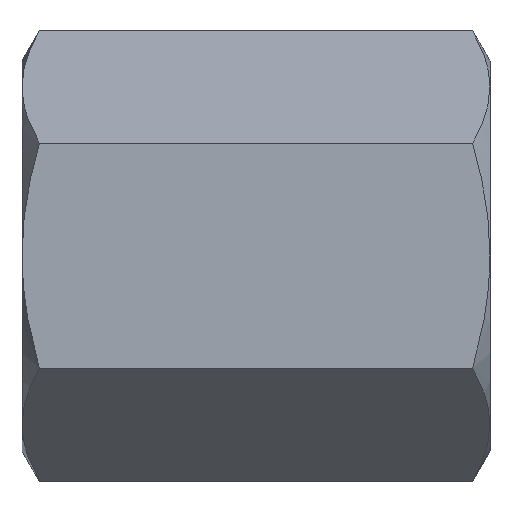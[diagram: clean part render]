
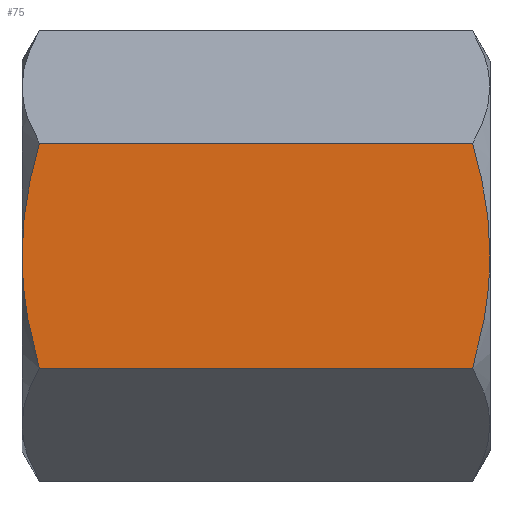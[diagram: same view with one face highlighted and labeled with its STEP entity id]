
A CAD part, top view. The second image highlights one B-rep face of the part: STEP entity #75.
In plain terms, the highlighted planar face has unit normal (0, 0, 1).
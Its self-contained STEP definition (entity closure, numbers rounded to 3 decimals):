
#75 = ADVANCED_FACE( '', ( #99 ), #100, .F. );
#99 = FACE_OUTER_BOUND( '', #150, .T. );
#100 = PLANE( '', #151 );
#150 = EDGE_LOOP( '', ( #201, #202, #203, #204, #205, #206 ) );
#151 = AXIS2_PLACEMENT_3D( '', #207, #208, #209 );
#201 = ORIENTED_EDGE( '', *, *, #362, .F. );
#202 = ORIENTED_EDGE( '', *, *, #363, .F. );
#203 = ORIENTED_EDGE( '', *, *, #364, .F. );
#204 = ORIENTED_EDGE( '', *, *, #365, .T. );
#205 = ORIENTED_EDGE( '', *, *, #366, .F. );
#206 = ORIENTED_EDGE( '', *, *, #367, .F. );
#207 = CARTESIAN_POINT( '', ( 12., 2.887, 5. ) );
#208 = DIRECTION( '', ( 0., 0., -1. ) );
#209 = DIRECTION( '', ( -1., 0., 0. ) );
#362 = EDGE_CURVE( '', #408, #409, #410, .T. );
#363 = EDGE_CURVE( '', #411, #408, #412, .F. );
#364 = EDGE_CURVE( '', #413, #411, #414, .F. );
#365 = EDGE_CURVE( '', #413, #415, #416, .T. );
#366 = EDGE_CURVE( '', #417, #415, #418, .T. );
#367 = EDGE_CURVE( '', #409, #417, #419, .T. );
#408 = VERTEX_POINT( '', #482 );
#409 = VERTEX_POINT( '', #483 );
#410 = LINE( '', #484, #485 );
#411 = VERTEX_POINT( '', #486 );
#412 = B_SPLINE_CURVE_WITH_KNOTS( '', 3, ( #487, #488, #489, #490, #491, #492 ), .UNSPECIFIED., .F., .F., ( 4, 2, 4 ), ( 0.005, 0.007, 0.008 ), .UNSPECIFIED. );
#413 = VERTEX_POINT( '', #493 );
#414 = B_SPLINE_CURVE_WITH_KNOTS( '', 3, ( #494, #495, #496, #497, #498, #499 ), .UNSPECIFIED., .F., .F., ( 4, 2, 4 ), ( 0.008, 0.01, 0.011 ), .UNSPECIFIED. );
#415 = VERTEX_POINT( '', #500 );
#416 = LINE( '', #501, #502 );
#417 = VERTEX_POINT( '', #503 );
#418 = B_SPLINE_CURVE_WITH_KNOTS( '', 3, ( #504, #505, #506, #507, #508, #509 ), .UNSPECIFIED., .F., .F., ( 4, 2, 4 ), ( 0.008, 0.01, 0.011 ), .UNSPECIFIED. );
#419 = B_SPLINE_CURVE_WITH_KNOTS( '', 3, ( #510, #511, #512, #513, #514, #515 ), .UNSPECIFIED., .F., .F., ( 4, 2, 4 ), ( 0.005, 0.007, 0.008 ), .UNSPECIFIED. );
#482 = CARTESIAN_POINT( '', ( 11.553, -2.887, 5. ) );
#483 = CARTESIAN_POINT( '', ( 0.447, -2.887, 5. ) );
#484 = CARTESIAN_POINT( '', ( 12., -2.887, 5. ) );
#485 = VECTOR( '', #682, 1000. );
#486 = CARTESIAN_POINT( '', ( 12., 0., 5. ) );
#487 = CARTESIAN_POINT( '', ( 11.553, -2.887, 5. ) );
#488 = CARTESIAN_POINT( '', ( 11.689, -2.417, 5. ) );
#489 = CARTESIAN_POINT( '', ( 11.803, -1.936, 5. ) );
#490 = CARTESIAN_POINT( '', ( 11.958, -0.973, 5. ) );
#491 = CARTESIAN_POINT( '', ( 12., -0.488, 5. ) );
#492 = CARTESIAN_POINT( '', ( 12., 0., 5. ) );
#493 = CARTESIAN_POINT( '', ( 11.553, 2.887, 5. ) );
#494 = CARTESIAN_POINT( '', ( 12., 0., 5. ) );
#495 = CARTESIAN_POINT( '', ( 12., 0.488, 5. ) );
#496 = CARTESIAN_POINT( '', ( 11.957, 0.983, 5. ) );
#497 = CARTESIAN_POINT( '', ( 11.8, 1.947, 5. ) );
#498 = CARTESIAN_POINT( '', ( 11.688, 2.42, 5. ) );
#499 = CARTESIAN_POINT( '', ( 11.553, 2.887, 5. ) );
#500 = CARTESIAN_POINT( '', ( 0.447, 2.887, 5. ) );
#501 = CARTESIAN_POINT( '', ( 12., 2.887, 5. ) );
#502 = VECTOR( '', #683, 1000. );
#503 = CARTESIAN_POINT( '', ( 0., 0., 5. ) );
#504 = CARTESIAN_POINT( '', ( 0., 0., 5. ) );
#505 = CARTESIAN_POINT( '', ( 0., 0.488, 5. ) );
#506 = CARTESIAN_POINT( '', ( 0.043, 0.983, 5. ) );
#507 = CARTESIAN_POINT( '', ( 0.2, 1.947, 5. ) );
#508 = CARTESIAN_POINT( '', ( 0.312, 2.42, 5. ) );
#509 = CARTESIAN_POINT( '', ( 0.447, 2.887, 5. ) );
#510 = CARTESIAN_POINT( '', ( 0.447, -2.887, 5. ) );
#511 = CARTESIAN_POINT( '', ( 0.311, -2.417, 5. ) );
#512 = CARTESIAN_POINT( '', ( 0.197, -1.936, 5. ) );
#513 = CARTESIAN_POINT( '', ( 0.042, -0.973, 5. ) );
#514 = CARTESIAN_POINT( '', ( 0., -0.488, 5. ) );
#515 = CARTESIAN_POINT( '', ( 0., 0., 5. ) );
#682 = DIRECTION( '', ( -1., 0., 0. ) );
#683 = DIRECTION( '', ( -1., 0., 0. ) );
